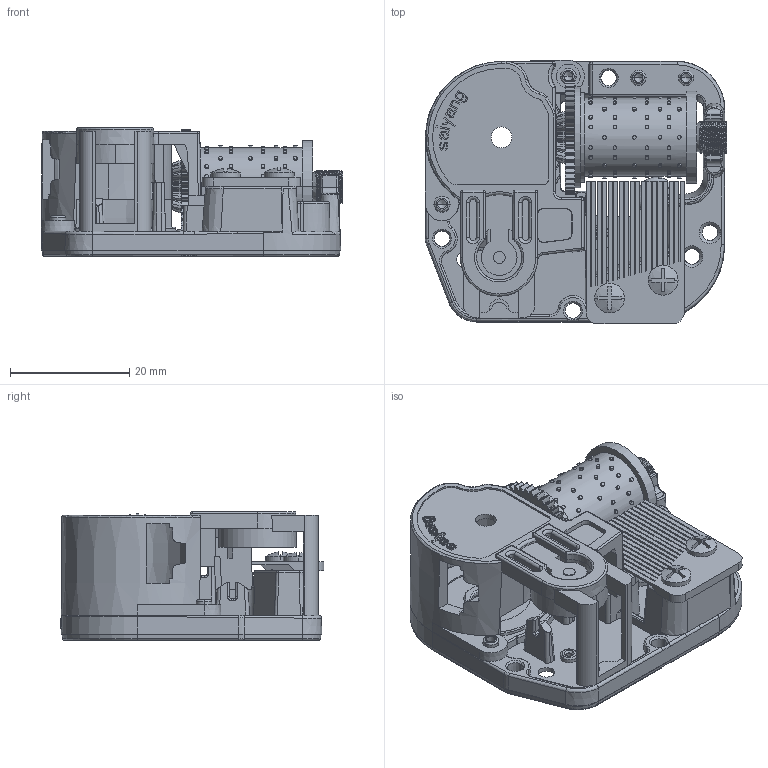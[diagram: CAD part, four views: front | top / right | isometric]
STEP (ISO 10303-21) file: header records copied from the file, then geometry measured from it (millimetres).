
FILE_DESCRIPTION((''),'2;1');
FILE_NAME('THIN-ALL_ASM','2018-11-06T',('Administrator'),(''),'PRO/ENGINEER BY PARAMETRIC TECHNOLOGY CORPORATION, 2007170','PRO/ENGINEER BY PARAMETRIC TECHNOLOGY CORPORATION, 2007170','');
FILE_SCHEMA(('CONFIG_CONTROL_DESIGN'));
Length unit declared in the file: millimetre
Products named in the file (9): 66-THIN-NEW; SPRING-NEW-SAIYANG; 02-02; RTRTR; B-SID; WEWE; FAYIAN; LUOSI; THIN-ALL_ASM
Assembly tree (9 placements, depth 2):
  THIN-ALL_ASM
    66-THIN-NEW
    SPRING-NEW-SAIYANG
    02-02
    RTRTR
    B-SID
    WEWE
    FAYIAN
    LUOSI  x2
Bounding box: 50.62 x 44.33 x 21.6 mm (x, y, z)
Volume: 10028.5 mm3; surface area: 16999.2 mm2
Topology: 9 solids, 9 shells, 2427 faces, 6285 edges, 4013 vertices
Faces by surface type: cylinder 1028, plane 769, bspline 240, cone 218, extrusion 96, torus 68, sphere 8
Entity records: 95871 total; most frequent: CARTESIAN_POINT 40103, ORIENTED_EDGE 12272, DIRECTION 10562, EDGE_CURVE 6136, VERTEX_POINT 3921, AXIS2_PLACEMENT_3D 3822, VECTOR 2918, LINE 2822
